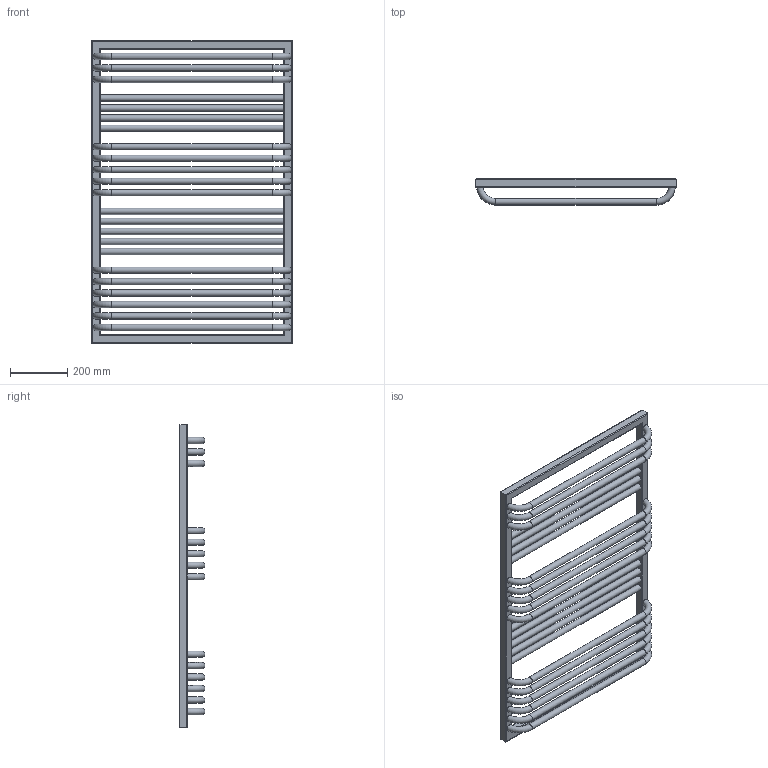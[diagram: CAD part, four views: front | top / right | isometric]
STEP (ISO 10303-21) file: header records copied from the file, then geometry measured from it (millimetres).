
FILE_DESCRIPTION((''),'2;1');
FILE_NAME('Z:\R\G\P\RGPH18 - Grzejnik POC\Work\Inventor\POC 1-6-8 v2.0\Marketing\AutoCad 3D\POC-1055-700-1-6-8.stp','2012-07-12T14:39:35',('KurKa'),(''),'Autodesk Inventor 2012','Autodesk Inventor 2012','');
FILE_SCHEMA(('AUTOMOTIVE_DESIGN { 1 0 10303 214 1 1 1 1 }'));
Length unit declared in the file: millimetre
Products named in the file (1): POC-1055-700-1-6-8
Bounding box: 700 x 90 x 1055 mm (x, y, z)
Volume: 9047683.6 mm3; surface area: 1469624.7 mm2
Topology: 1 solids, 1 shells, 86 faces, 224 edges, 143 vertices
Faces by surface type: cylinder 42, torus 31, plane 13
Full cylindrical faces by diameter (mm): 18.631 x3, 22 x23
Entity records: 3976 total; most frequent: CARTESIAN_POINT 2161, DIRECTION 356, ORIENTED_EDGE 278, EDGE_LOOP 194, AXIS2_PLACEMENT_3D 158, EDGE_CURVE 139, VERTEX_POINT 115, FACE_BOUND 108
